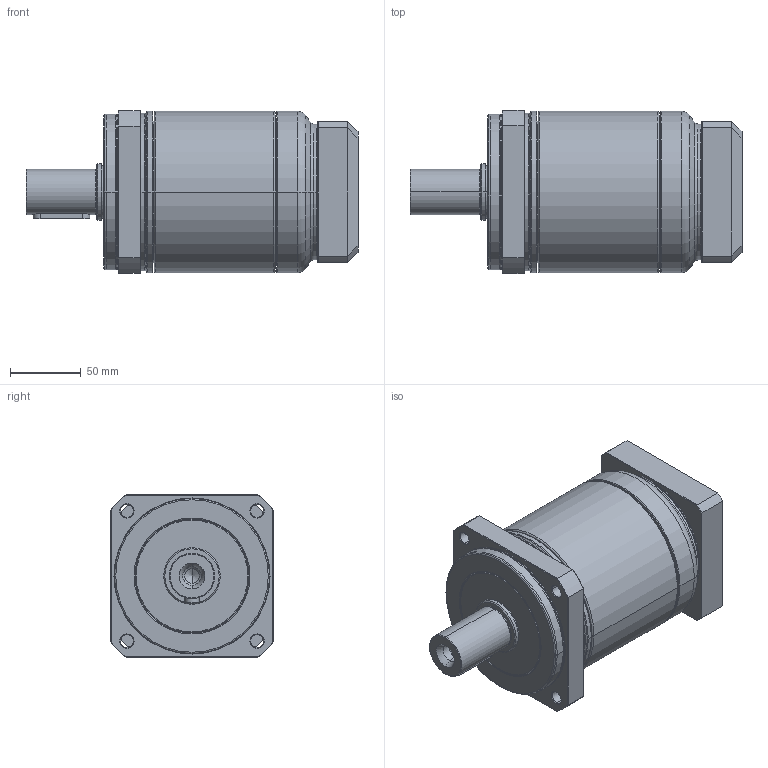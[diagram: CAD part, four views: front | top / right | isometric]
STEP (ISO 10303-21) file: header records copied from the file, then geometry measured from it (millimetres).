
FILE_DESCRIPTION((''),'2;1');
FILE_NAME('PA2-115_2ST_24-P0411500101_ASM','2016-05-11T',('d01943'),(''),'PRO/ENGINEER BY PARAMETRIC TECHNOLOGY CORPORATION, 2008410','PRO/ENGINEER BY PARAMETRIC TECHNOLOGY CORPORATION, 2008410','');
FILE_SCHEMA(('CONFIG_CONTROL_DESIGN'));
Length unit declared in the file: millimetre
Products named in the file (9): P1327410001; P0251400001; P1324400101; P0350400601; P0941401001; P0503500008; P0411500101; P1702500001; PA2-115_2ST_24-P0411500101_ASM
Assembly tree (8 placements, depth 2):
  PA2-115_2ST_24-P0411500101_ASM
    P1327410001
    P0251400001
    P1324400101
    P0350400601
    P0941401001
    P0503500008
    P0411500101
    P1702500001
Bounding box: 234.5 x 115 x 115 mm (x, y, z)
Volume: 1273426.9 mm3; surface area: 235869 mm2
Topology: 8 solids, 8 shells, 478 faces, 1042 edges, 600 vertices
Faces by surface type: cone 148, cylinder 135, torus 92, plane 87, bspline 16
Entity records: 17661 total; most frequent: CARTESIAN_POINT 6922, DIRECTION 2436, ORIENTED_EDGE 2044, AXIS2_PLACEMENT_3D 1040, EDGE_CURVE 1022, VERTEX_POINT 600, CIRCLE 561, EDGE_LOOP 542
